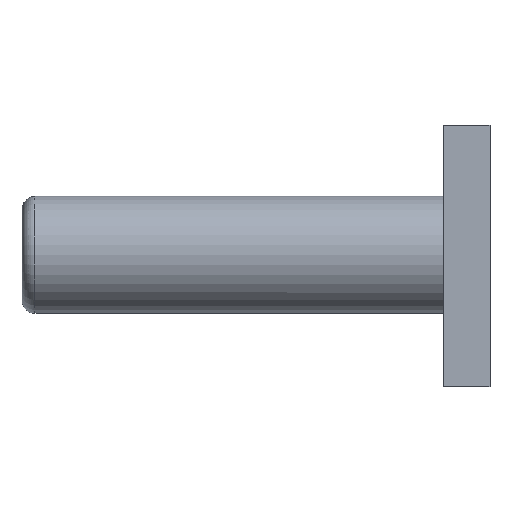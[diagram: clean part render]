
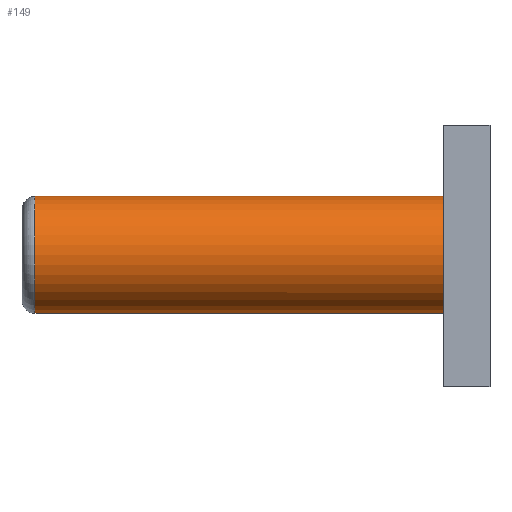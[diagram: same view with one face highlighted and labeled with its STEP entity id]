
A CAD part, top view. The second image highlights one B-rep face of the part: STEP entity #149.
In plain terms, the highlighted cylindrical face has radius 4.5 mm (diameter 9 mm), a full revolution.
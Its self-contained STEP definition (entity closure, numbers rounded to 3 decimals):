
#27=CARTESIAN_POINT('',(18.75,745.731,-29.111));
#28=DIRECTION('',(-1.,0.,0.));
#29=DIRECTION('',(0.,0.,1.));
#30=AXIS2_PLACEMENT_3D('',#27,#28,#29);
#31=CYLINDRICAL_SURFACE('',#30,4.5);
#32=CARTESIAN_POINT('',(-15.55,745.731,-24.611));
#33=VERTEX_POINT('',#32);
#34=CARTESIAN_POINT('',(15.85,745.731,-24.611));
#35=VERTEX_POINT('',#34);
#36=CARTESIAN_POINT('',(-15.55,745.731,-24.611));
#37=DIRECTION('',(1.,-0.,-0.));
#38=VECTOR('',#37,31.4);
#39=LINE('',#36,#38);
#40=EDGE_CURVE('',#33,#35,#39,.T.);
#41=ORIENTED_EDGE('',*,*,#40,.T.);
#42=CARTESIAN_POINT('',(15.85,750.161,-29.9));
#43=VERTEX_POINT('',#42);
#44=CARTESIAN_POINT('',(15.85,745.731,-29.111));
#45=DIRECTION('',(-1.,0.,0.));
#46=DIRECTION('',(0.,-1.,0.));
#47=AXIS2_PLACEMENT_3D('',#44,#45,#46);
#48=CIRCLE('',#47,4.5);
#49=EDGE_CURVE('',#35,#43,#48,.T.);
#50=ORIENTED_EDGE('',*,*,#49,.T.);
#51=CARTESIAN_POINT('',(18.743,748.318,-32.793));
#52=VERTEX_POINT('',#51);
#53=CARTESIAN_POINT('',(15.061,745.731,-29.111));
#54=DIRECTION('',(0.707,0.,0.707));
#55=DIRECTION('',(-0.707,0.,0.707));
#56=AXIS2_PLACEMENT_3D('',#53,#54,#55);
#57=ELLIPSE('',#56,6.364,4.5);
#58=EDGE_CURVE('',#52,#43,#57,.T.);
#59=ORIENTED_EDGE('',*,*,#58,.F.);
#60=CARTESIAN_POINT('',(18.75,748.323,-32.79));
#61=VERTEX_POINT('',#60);
#62=CARTESIAN_POINT('',(27.631,745.731,-29.111));
#63=DIRECTION('',(-0.383,-0.,0.924));
#64=DIRECTION('',(-0.924,0.,-0.383));
#65=AXIS2_PLACEMENT_3D('',#62,#63,#64);
#66=ELLIPSE('',#65,11.759,4.5);
#67=EDGE_CURVE('',#61,#52,#66,.T.);
#68=ORIENTED_EDGE('',*,*,#67,.F.);
#69=CARTESIAN_POINT('',(18.75,743.139,-32.79));
#70=VERTEX_POINT('',#69);
#71=CARTESIAN_POINT('',(18.75,745.731,-29.111));
#72=DIRECTION('',(-1.,0.,0.));
#73=DIRECTION('',(0.,-1.,0.));
#74=AXIS2_PLACEMENT_3D('',#71,#72,#73);
#75=CIRCLE('',#74,4.5);
#76=EDGE_CURVE('',#61,#70,#75,.T.);
#77=ORIENTED_EDGE('',*,*,#76,.T.);
#78=CARTESIAN_POINT('',(18.743,743.143,-32.793));
#79=VERTEX_POINT('',#78);
#80=CARTESIAN_POINT('',(27.631,745.731,-29.111));
#81=DIRECTION('',(-0.383,-0.,0.924));
#82=DIRECTION('',(-0.924,0.,-0.383));
#83=AXIS2_PLACEMENT_3D('',#80,#81,#82);
#84=ELLIPSE('',#83,11.759,4.5);
#85=EDGE_CURVE('',#79,#70,#84,.T.);
#86=ORIENTED_EDGE('',*,*,#85,.F.);
#87=CARTESIAN_POINT('',(15.85,741.301,-29.9));
#88=VERTEX_POINT('',#87);
#89=CARTESIAN_POINT('',(15.061,745.731,-29.111));
#90=DIRECTION('',(0.707,0.,0.707));
#91=DIRECTION('',(-0.707,0.,0.707));
#92=AXIS2_PLACEMENT_3D('',#89,#90,#91);
#93=ELLIPSE('',#92,6.364,4.5);
#94=EDGE_CURVE('',#88,#79,#93,.T.);
#95=ORIENTED_EDGE('',*,*,#94,.F.);
#96=CARTESIAN_POINT('',(15.85,745.731,-29.111));
#97=DIRECTION('',(-1.,0.,0.));
#98=DIRECTION('',(0.,-1.,0.));
#99=AXIS2_PLACEMENT_3D('',#96,#97,#98);
#100=CIRCLE('',#99,4.5);
#101=EDGE_CURVE('',#88,#35,#100,.T.);
#102=ORIENTED_EDGE('',*,*,#101,.T.);
#103=ORIENTED_EDGE('',*,*,#40,.F.);
#104=CARTESIAN_POINT('',(-15.55,745.731,-29.111));
#105=DIRECTION('',(1.,-0.,-0.));
#106=DIRECTION('',(0.,0.,1.));
#107=AXIS2_PLACEMENT_3D('',#104,#105,#106);
#108=CIRCLE('',#107,4.5);
#109=EDGE_CURVE('',#33,#33,#108,.T.);
#110=ORIENTED_EDGE('',*,*,#109,.T.);
#111=EDGE_LOOP('',(#41,#50,#59,#68,#77,#86,#95,#102,#103,#110));
#112=FACE_BOUND('',#111,.T.);
#113=CARTESIAN_POINT('',(-7.004,741.872,-31.426));
#114=VERTEX_POINT('',#113);
#115=CARTESIAN_POINT('',(-7.004,749.59,-31.426));
#116=VERTEX_POINT('',#115);
#117=CARTESIAN_POINT('',(-5.062,745.731,-29.111));
#118=DIRECTION('',(0.766,-0.,-0.643));
#119=DIRECTION('',(-0.643,0.,-0.766));
#120=AXIS2_PLACEMENT_3D('',#117,#118,#119);
#121=ELLIPSE('',#120,5.873,4.5);
#122=EDGE_CURVE('',#114,#116,#121,.T.);
#123=ORIENTED_EDGE('',*,*,#122,.F.);
#124=CARTESIAN_POINT('',(7.004,741.872,-31.426));
#125=VERTEX_POINT('',#124);
#126=CARTESIAN_POINT('',(-7.004,741.872,-31.426));
#127=DIRECTION('',(1.,-0.,-0.));
#128=VECTOR('',#127,14.007);
#129=LINE('',#126,#128);
#130=EDGE_CURVE('',#114,#125,#129,.T.);
#131=ORIENTED_EDGE('',*,*,#130,.T.);
#132=CARTESIAN_POINT('',(7.004,749.59,-31.426));
#133=VERTEX_POINT('',#132);
#134=CARTESIAN_POINT('',(5.062,745.731,-29.111));
#135=DIRECTION('',(0.766,-0.,0.643));
#136=DIRECTION('',(-0.643,0.,0.766));
#137=AXIS2_PLACEMENT_3D('',#134,#135,#136);
#138=ELLIPSE('',#137,5.873,4.5);
#139=EDGE_CURVE('',#125,#133,#138,.T.);
#140=ORIENTED_EDGE('',*,*,#139,.T.);
#141=CARTESIAN_POINT('',(7.004,749.59,-31.426));
#142=DIRECTION('',(-1.,0.,0.));
#143=VECTOR('',#142,14.007);
#144=LINE('',#141,#143);
#145=EDGE_CURVE('',#133,#116,#144,.T.);
#146=ORIENTED_EDGE('',*,*,#145,.T.);
#147=EDGE_LOOP('',(#123,#131,#140,#146));
#148=FACE_BOUND('',#147,.T.);
#149=ADVANCED_FACE('',(#112,#148),#31,.T.);
